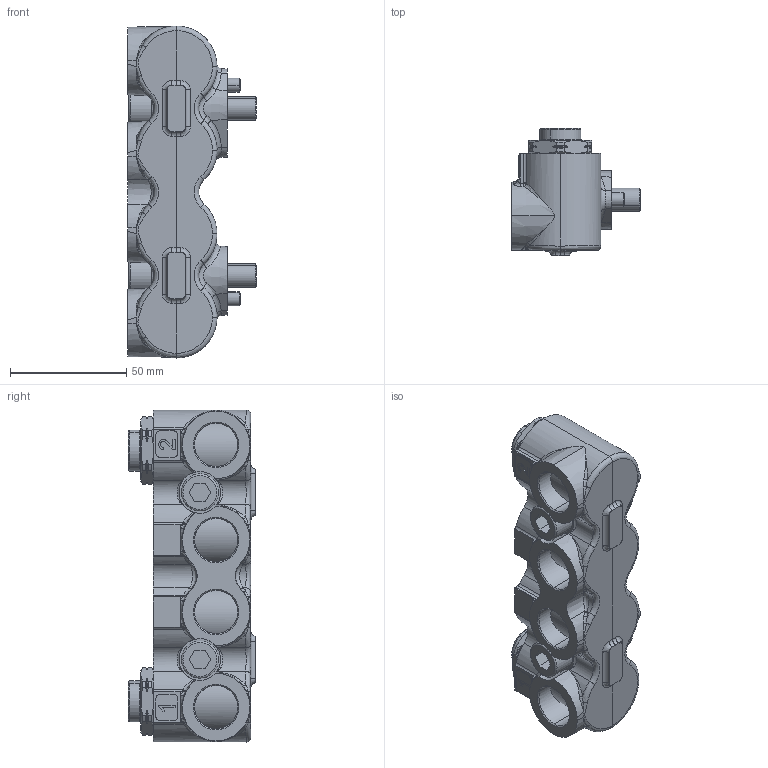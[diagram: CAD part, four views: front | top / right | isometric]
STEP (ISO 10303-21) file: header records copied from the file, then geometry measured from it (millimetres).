
FILE_DESCRIPTION (( 'STEP AP214' ), '1' );
FILE_NAME ('P7319-2A.STEP', '2023-05-25T09:28:29', ( '' ), ( '' ), 'SwSTEP 2.0', 'SolidWorks 2021', '' );
FILE_SCHEMA (( 'AUTOMOTIVE_DESIGN' ));
Length unit declared in the file: millimetre
Products named in the file (1): P7319-2A
Bounding box: 55.5 x 54.8 x 143 mm (x, y, z)
Volume: 201707.2 mm3; surface area: 45278.3 mm2
Topology: 11 solids, 11 shells, 607 faces, 1514 edges, 945 vertices
Faces by surface type: cylinder 168, bspline 155, plane 125, cone 115, torus 44
Entity records: 32287 total; most frequent: CARTESIAN_POINT 12400, ORIENTED_EDGE 3020, DIRECTION 2393, EDGE_CURVE 1510, AXIS2_PLACEMENT_3D 973, VERTEX_POINT 945, EDGE_LOOP 631, UNCERTAINTY_MEASURE_WITH_UNIT 620
